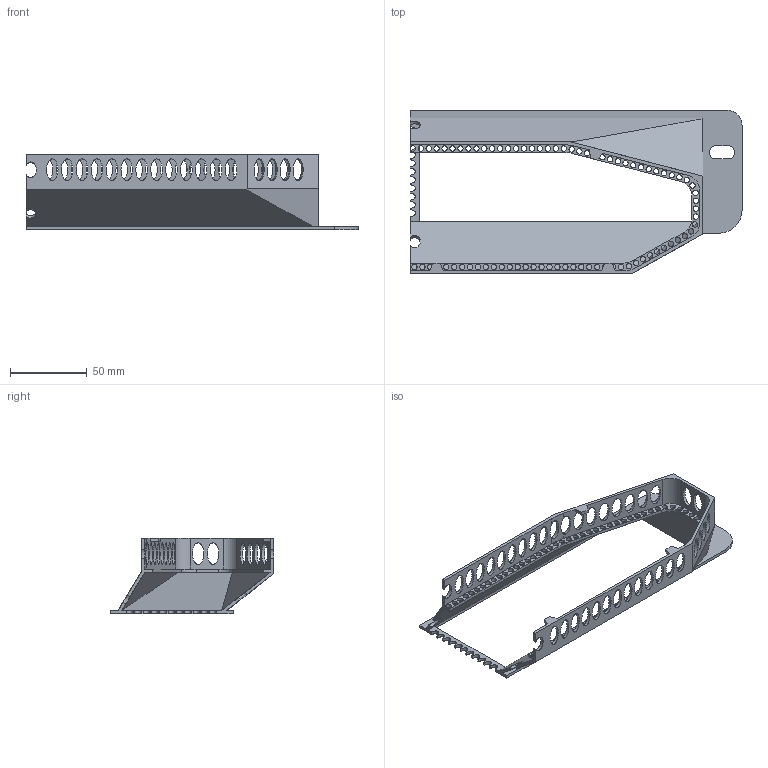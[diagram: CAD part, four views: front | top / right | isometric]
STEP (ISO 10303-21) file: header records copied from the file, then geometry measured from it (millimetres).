
FILE_DESCRIPTION(/* description */ ('Unknown','CAx-IF Rec.Pracs.---Representation and Presentation of Product Manufacturing Information (PMI)---4.0---2014-10-13','CAx-IF Rec.Pracs.---3D Tessellated Geometry---0.4---2014-09-14','2;1'),/* implementation_level */ '2;1');
FILE_NAME(/* name */ 'carcasa7_2',/* time_stamp */ '2026-02-16T08:35:54+01:00',/* author */ ('Unknown'),/* organization */ ('Unknown'),/* preprocessor_version */ 'ST-DEVELOPER v16.7',/* originating_system */ 'Solid Edge',/* authorisation */ 'Unknown');
FILE_SCHEMA (('AP242_MANAGED_MODEL_BASED_3D_ENGINEERING_MIM_LF { 1 0 10303 442 1 1 4 }'));
Length unit declared in the file: millimetre
Products named in the file (1): carcasa7_2
Bounding box: 215.75 x 106.5 x 49 mm (x, y, z)
Volume: 55280.1 mm3; surface area: 61493.3 mm2
Topology: 1 solids, 1 shells, 210 faces, 710 edges, 498 vertices
Faces by surface type: cylinder 91, plane 67, bspline 52
Full cylindrical faces by diameter (mm): 3.5 x79
Entity records: 7990 total; most frequent: CARTESIAN_POINT 2177, DIRECTION 1114, ORIENTED_EDGE 1026, EDGE_LOOP 558, FACE_BOUND 558, EDGE_CURVE 513, AXIS2_PLACEMENT_3D 446, VERTEX_POINT 417
